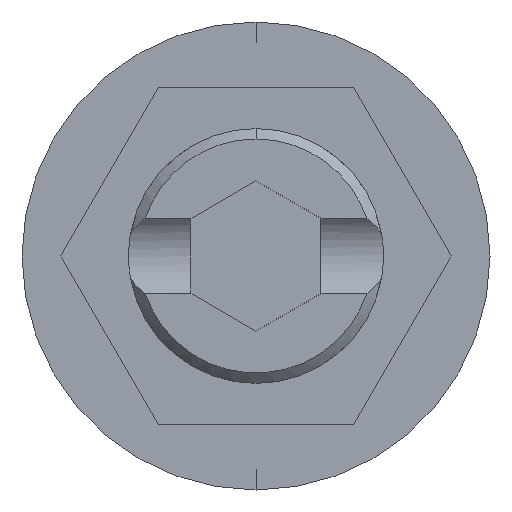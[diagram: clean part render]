
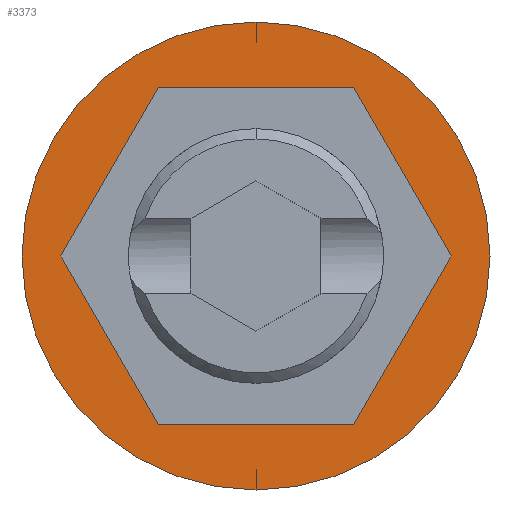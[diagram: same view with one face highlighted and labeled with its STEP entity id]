
A CAD part, front view. The second image highlights one B-rep face of the part: STEP entity #3373.
In plain terms, the highlighted planar face has unit normal (0, -1, 0).
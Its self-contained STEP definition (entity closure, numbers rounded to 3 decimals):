
#3 = VERTEX_POINT ( 'NONE', #3587 ) ;
#9 = CARTESIAN_POINT ( 'NONE',  ( -1.876, 0., -3.25 ) ) ;
#352 = CARTESIAN_POINT ( 'NONE',  ( 0., 0., 0. ) ) ;
#469 = VECTOR ( 'NONE', #2310, 1000. ) ;
#475 = EDGE_CURVE ( 'NONE', #2987, #1142, #2199, .T. ) ;
#519 = LINE ( 'NONE', #572, #3741 ) ;
#572 = CARTESIAN_POINT ( 'NONE',  ( 3.753, 0., 0. ) ) ;
#658 = VERTEX_POINT ( 'NONE', #1787 ) ;
#766 = CARTESIAN_POINT ( 'NONE',  ( 0., 0., 0. ) ) ;
#874 = VECTOR ( 'NONE', #3458, 1000. ) ;
#898 = VERTEX_POINT ( 'NONE', #3381 ) ;
#1087 = DIRECTION ( 'NONE',  ( 0., 0., -1. ) ) ;
#1128 = DIRECTION ( 'NONE',  ( -1., 0., 0. ) ) ;
#1142 = VERTEX_POINT ( 'NONE', #4179 ) ;
#1179 = CIRCLE ( 'NONE', #3188, 4.5 ) ;
#1199 = CARTESIAN_POINT ( 'NONE',  ( -3.753, 0., 0. ) ) ;
#1204 = EDGE_LOOP ( 'NONE', ( #3433, #4050 ) ) ;
#1264 = VECTOR ( 'NONE', #1128, 1000. ) ;
#1559 = EDGE_CURVE ( 'NONE', #3665, #898, #2974, .T. ) ;
#1645 = EDGE_CURVE ( 'NONE', #2774, #658, #1179, .T. ) ;
#1702 = LINE ( 'NONE', #1199, #874 ) ;
#1783 = CARTESIAN_POINT ( 'NONE',  ( 1.876, 0., 3.25 ) ) ;
#1787 = CARTESIAN_POINT ( 'NONE',  ( 0., 0., -4.5 ) ) ;
#1931 = DIRECTION ( 'NONE',  ( 0., 0., -1. ) ) ;
#1985 = CARTESIAN_POINT ( 'NONE',  ( -1.876, 0., 3.25 ) ) ;
#2095 = CARTESIAN_POINT ( 'NONE',  ( 1.876, 0., -3.25 ) ) ;
#2125 = DIRECTION ( 'NONE',  ( 1., 0., 0. ) ) ;
#2198 = EDGE_CURVE ( 'NONE', #1142, #3, #3029, .T. ) ;
#2199 = LINE ( 'NONE', #2450, #3089 ) ;
#2283 = LINE ( 'NONE', #1985, #3170 ) ;
#2310 = DIRECTION ( 'NONE',  ( 0.5, 0., 0.866 ) ) ;
#2450 = CARTESIAN_POINT ( 'NONE',  ( -1.876, 0., -3.25 ) ) ;
#2477 = AXIS2_PLACEMENT_3D ( 'NONE', #766, #3002, #1087 ) ;
#2553 = EDGE_LOOP ( 'NONE', ( #3349, #3576, #3740, #3301, #2570, #3481 ) ) ;
#2570 = ORIENTED_EDGE ( 'NONE', *, *, #2625, .F. ) ;
#2625 = EDGE_CURVE ( 'NONE', #3, #3665, #519, .T. ) ;
#2768 = EDGE_CURVE ( 'NONE', #3149, #2987, #1702, .T. ) ;
#2774 = VERTEX_POINT ( 'NONE', #4107 ) ;
#2840 = AXIS2_PLACEMENT_3D ( 'NONE', #352, #3909, #1931 ) ;
#2974 = LINE ( 'NONE', #1783, #1264 ) ;
#2987 = VERTEX_POINT ( 'NONE', #9 ) ;
#3002 = DIRECTION ( 'NONE',  ( 0., -1., 0. ) ) ;
#3029 = LINE ( 'NONE', #2095, #469 ) ;
#3089 = VECTOR ( 'NONE', #2125, 1000. ) ;
#3149 = VERTEX_POINT ( 'NONE', #3983 ) ;
#3151 = DIRECTION ( 'NONE',  ( -0.5, 0., 0.866 ) ) ;
#3161 = EDGE_CURVE ( 'NONE', #658, #2774, #3833, .T. ) ;
#3170 = VECTOR ( 'NONE', #3968, 1000. ) ;
#3188 = AXIS2_PLACEMENT_3D ( 'NONE', #3364, #3497, #3409 ) ;
#3301 = ORIENTED_EDGE ( 'NONE', *, *, #1559, .F. ) ;
#3329 = FACE_BOUND ( 'NONE', #2553, .T. ) ;
#3349 = ORIENTED_EDGE ( 'NONE', *, *, #475, .F. ) ;
#3364 = CARTESIAN_POINT ( 'NONE',  ( 0., 0., 0. ) ) ;
#3373 = ADVANCED_FACE ( 'NONE', ( #3329, #4097 ), #3578, .T. ) ;
#3381 = CARTESIAN_POINT ( 'NONE',  ( -1.876, 0., 3.25 ) ) ;
#3409 = DIRECTION ( 'NONE',  ( 0., 0., -1. ) ) ;
#3433 = ORIENTED_EDGE ( 'NONE', *, *, #3161, .T. ) ;
#3458 = DIRECTION ( 'NONE',  ( 0.5, 0., -0.866 ) ) ;
#3481 = ORIENTED_EDGE ( 'NONE', *, *, #2198, .F. ) ;
#3497 = DIRECTION ( 'NONE',  ( 0., -1., 0. ) ) ;
#3576 = ORIENTED_EDGE ( 'NONE', *, *, #2768, .F. ) ;
#3578 = PLANE ( 'NONE',  #2840 ) ;
#3587 = CARTESIAN_POINT ( 'NONE',  ( 3.753, 0., 0. ) ) ;
#3665 = VERTEX_POINT ( 'NONE', #3926 ) ;
#3736 = EDGE_CURVE ( 'NONE', #898, #3149, #2283, .T. ) ;
#3740 = ORIENTED_EDGE ( 'NONE', *, *, #3736, .F. ) ;
#3741 = VECTOR ( 'NONE', #3151, 1000. ) ;
#3833 = CIRCLE ( 'NONE', #2477, 4.5 ) ;
#3909 = DIRECTION ( 'NONE',  ( 0., -1., 0. ) ) ;
#3926 = CARTESIAN_POINT ( 'NONE',  ( 1.876, 0., 3.25 ) ) ;
#3968 = DIRECTION ( 'NONE',  ( -0.5, 0., -0.866 ) ) ;
#3983 = CARTESIAN_POINT ( 'NONE',  ( -3.753, 0., 0. ) ) ;
#4050 = ORIENTED_EDGE ( 'NONE', *, *, #1645, .T. ) ;
#4097 = FACE_OUTER_BOUND ( 'NONE', #1204, .T. ) ;
#4107 = CARTESIAN_POINT ( 'NONE',  ( 0., 0., 4.5 ) ) ;
#4179 = CARTESIAN_POINT ( 'NONE',  ( 1.876, 0., -3.25 ) ) ;
